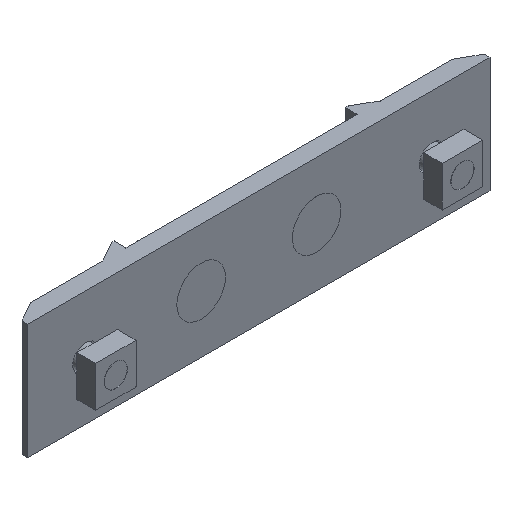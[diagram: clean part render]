
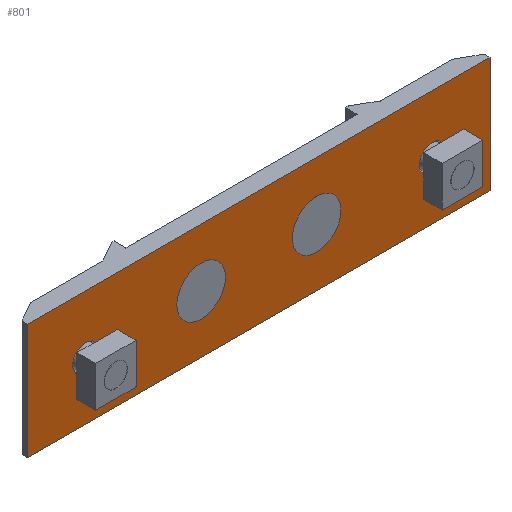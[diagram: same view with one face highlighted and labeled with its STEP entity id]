
A CAD part, isometric view. The second image highlights one B-rep face of the part: STEP entity #801.
In plain terms, the highlighted planar face has unit normal (0, -1, 0).
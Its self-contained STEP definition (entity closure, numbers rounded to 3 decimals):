
#123=CARTESIAN_POINT('',(-64.5,0.,0.0));
#124=VERTEX_POINT('',#123);
#125=CARTESIAN_POINT('',(-60.,0.0,0.0));
#126=DIRECTION('',(0.0,1.0,0.0));
#127=DIRECTION('',(-1.0,0.0,0.0));
#128=AXIS2_PLACEMENT_3D('',#125,#126,#127);
#129=CIRCLE('',#128,4.5);
#130=EDGE_CURVE('',#124,#124,#129,.T.);
#140=CARTESIAN_POINT('',(-28.4,0.,0.0));
#141=VERTEX_POINT('',#140);
#142=CARTESIAN_POINT('',(-20.,0.,0.0));
#143=DIRECTION('',(0.0,1.0,0.0));
#144=DIRECTION('',(-1.0,0.0,0.0));
#145=AXIS2_PLACEMENT_3D('',#142,#143,#144);
#146=CIRCLE('',#145,8.4);
#147=EDGE_CURVE('',#141,#141,#146,.T.);
#220=CARTESIAN_POINT('',(64.5,0.,0.0));
#221=VERTEX_POINT('',#220);
#222=CARTESIAN_POINT('',(60.,0.0,0.0));
#223=DIRECTION('',(0.0,1.0,0.0));
#224=DIRECTION('',(1.0,0.0,0.0));
#225=AXIS2_PLACEMENT_3D('',#222,#223,#224);
#226=CIRCLE('',#225,4.5);
#227=EDGE_CURVE('',#221,#221,#226,.T.);
#258=CARTESIAN_POINT('',(28.4,0.,0.0));
#259=VERTEX_POINT('',#258);
#260=CARTESIAN_POINT('',(20.,0.,0.0));
#261=DIRECTION('',(0.0,1.0,0.0));
#262=DIRECTION('',(1.0,0.0,0.0));
#263=AXIS2_PLACEMENT_3D('',#260,#261,#262);
#264=CIRCLE('',#263,8.4);
#265=EDGE_CURVE('',#259,#259,#264,.T.);
#327=CARTESIAN_POINT('',(80.,0.0,-20.));
#328=VERTEX_POINT('',#327);
#337=CARTESIAN_POINT('',(-80.,0.,-20.));
#338=VERTEX_POINT('',#337);
#339=CARTESIAN_POINT('',(-80.,0.,-20.));
#340=DIRECTION('',(1.0,0.0,0.0));
#341=VECTOR('',#340,160.0);
#342=LINE('',#339,#341);
#343=EDGE_CURVE('',#338,#328,#342,.T.);
#447=CARTESIAN_POINT('',(-80.,0.,20.));
#448=VERTEX_POINT('',#447);
#464=CARTESIAN_POINT('',(-80.,0.,20.));
#465=DIRECTION('',(0.0,0.0,-1.0));
#466=VECTOR('',#465,40.);
#467=LINE('',#464,#466);
#468=EDGE_CURVE('',#448,#338,#467,.T.);
#754=CARTESIAN_POINT('',(80.,0.0,20.));
#755=VERTEX_POINT('',#754);
#762=CARTESIAN_POINT('',(80.,0.0,-20.));
#763=DIRECTION('',(0.0,0.0,1.0));
#764=VECTOR('',#763,40.);
#765=LINE('',#762,#764);
#766=EDGE_CURVE('',#328,#755,#765,.T.);
#773=CARTESIAN_POINT('',(80.,0.0,0.0));
#774=DIRECTION('',(0.0,-1.0,0.0));
#775=DIRECTION('',(0.0,0.0,-1.0));
#776=AXIS2_PLACEMENT_3D('',#773,#774,#775);
#777=PLANE('',#776);
#778=CARTESIAN_POINT('',(80.,0.0,20.));
#779=DIRECTION('',(-1.0,0.0,0.0));
#780=VECTOR('',#779,160.0);
#781=LINE('',#778,#780);
#782=EDGE_CURVE('',#755,#448,#781,.T.);
#783=ORIENTED_EDGE('',*,*,#782,.T.);
#784=ORIENTED_EDGE('',*,*,#468,.T.);
#785=ORIENTED_EDGE('',*,*,#343,.T.);
#786=ORIENTED_EDGE('',*,*,#766,.T.);
#787=EDGE_LOOP('',(#783,#784,#785,#786));
#788=FACE_OUTER_BOUND('',#787,.T.);
#789=ORIENTED_EDGE('',*,*,#130,.T.);
#790=EDGE_LOOP('',(#789));
#791=FACE_BOUND('',#790,.T.);
#792=ORIENTED_EDGE('',*,*,#147,.T.);
#793=EDGE_LOOP('',(#792));
#794=FACE_BOUND('',#793,.T.);
#795=ORIENTED_EDGE('',*,*,#227,.T.);
#796=EDGE_LOOP('',(#795));
#797=FACE_BOUND('',#796,.T.);
#798=ORIENTED_EDGE('',*,*,#265,.T.);
#799=EDGE_LOOP('',(#798));
#800=FACE_BOUND('',#799,.T.);
#801=ADVANCED_FACE('',(#788,#791,#794,#797,#800),#777,.T.);
